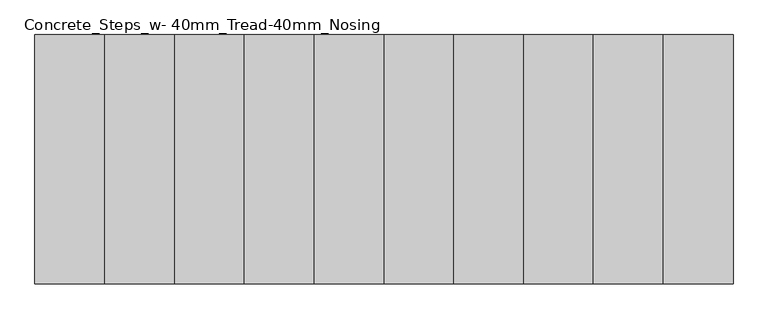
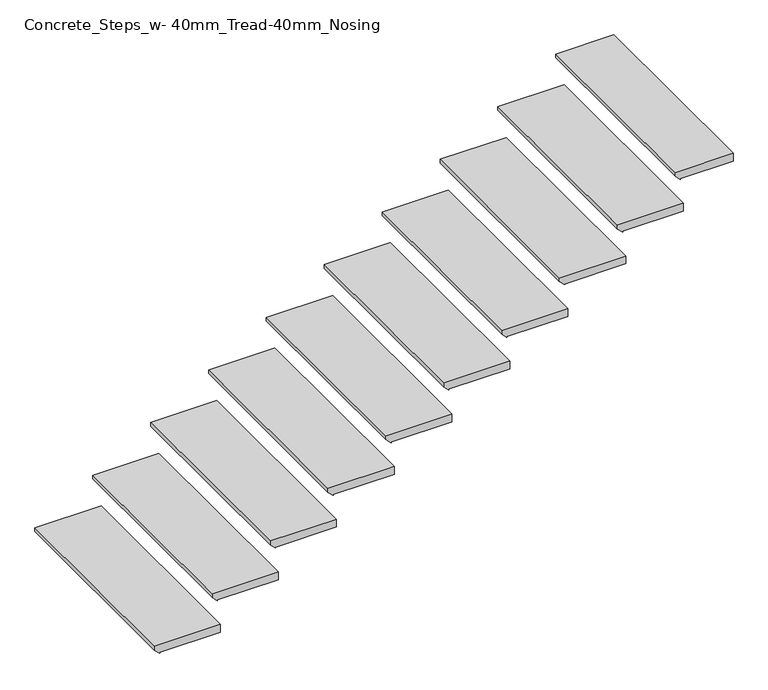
"""IFC4 building model written with IfcOpenShell, lengths in millimetres: stair flight geometry, Concrete_Steps_w- 40mm_Tread-40mm_Nosing."""

from ifc_helpers import new_model, si_unit, frame, origin, place, context, project, spatial, polyline, outline, extrude, source, transform, mapped, element, save


def concrete_steps_w_40mm_tread_40mm_nosing_744af4b3(model_context):
    return source(origin(), model_context, "Body", "SweptSolid", [
        extrude(outline(polyline([(11171.4285714, 35605.7942367), (11171.4285714, 35285.7942367), (11152.3785714, 35285.7942367), (11126.9785714, 35311.1942367), (11131.4285714, 35311.1942367), (11131.4285714, 35605.7942367), (11171.4285714, 35605.7942367)])), frame((0.0, -998.1974508, 0.0), z_axis=(0.0, 1.0, 0.0), x_axis=(0.0, 0.0, 1.0)), (0.0, 0.0, 1.0), 1000.0),
        extrude(outline(polyline([(11342.8571429, 35885.7942367), (11342.8571429, 35565.7942367), (11323.8071429, 35565.7942367), (11298.4071429, 35591.1942367), (11302.8571429, 35591.1942367), (11302.8571429, 35885.7942367), (11342.8571429, 35885.7942367)])), frame((0.0, -998.1974508, 0.0), z_axis=(0.0, 1.0, 0.0), x_axis=(0.0, 0.0, 1.0)), (0.0, 0.0, 1.0), 1000.0),
        extrude(outline(polyline([(11514.2857143, 36165.7942367), (11514.2857143, 35845.7942367), (11495.2357143, 35845.7942367), (11469.8357143, 35871.1942367), (11474.2857143, 35871.1942367), (11474.2857143, 36165.7942367), (11514.2857143, 36165.7942367)])), frame((0.0, -998.1974508, 0.0), z_axis=(0.0, 1.0, 0.0), x_axis=(0.0, 0.0, 1.0)), (0.0, 0.0, 1.0), 1000.0),
        extrude(outline(polyline([(11685.7142857, 36445.7942367), (11685.7142857, 36125.7942367), (11666.6642857, 36125.7942367), (11641.2642857, 36151.1942367), (11645.7142857, 36151.1942367), (11645.7142857, 36445.7942367), (11685.7142857, 36445.7942367)])), frame((0.0, -998.1974508, 0.0), z_axis=(0.0, 1.0, 0.0), x_axis=(0.0, 0.0, 1.0)), (0.0, 0.0, 1.0), 1000.0),
        extrude(outline(polyline([(11857.1428571, 36725.7942367), (11857.1428571, 36405.7942367), (11838.0928571, 36405.7942367), (11812.6928571, 36431.1942367), (11817.1428571, 36431.1942367), (11817.1428571, 36725.7942367), (11857.1428571, 36725.7942367)])), frame((0.0, -998.1974508, 0.0), z_axis=(0.0, 1.0, 0.0), x_axis=(0.0, 0.0, 1.0)), (0.0, 0.0, 1.0), 1000.0),
        extrude(outline(polyline([(12028.5714286, 37005.7942367), (12028.5714286, 36685.7942367), (12009.5214286, 36685.7942367), (11984.1214286, 36711.1942367), (11988.5714286, 36711.1942367), (11988.5714286, 37005.7942367), (12028.5714286, 37005.7942367)])), frame((0.0, -998.1974508, 0.0), z_axis=(0.0, 1.0, 0.0), x_axis=(0.0, 0.0, 1.0)), (0.0, 0.0, 1.0), 1000.0),
        extrude(outline(polyline([(12200.0, 37285.7942367), (12200.0, 36965.7942367), (12180.95, 36965.7942367), (12155.55, 36991.1942367), (12160.0, 36991.1942367), (12160.0, 37285.7942367), (12200.0, 37285.7942367)])), frame((0.0, -998.1974508, 0.0), z_axis=(0.0, 1.0, 0.0), x_axis=(0.0, 0.0, 1.0)), (0.0, 0.0, 1.0), 1000.0),
        extrude(outline(polyline([(12371.4285714, 37565.7942367), (12371.4285714, 37245.7942367), (12352.3785714, 37245.7942367), (12326.9785714, 37271.1942367), (12331.4285714, 37271.1942367), (12331.4285714, 37565.7942367), (12371.4285714, 37565.7942367)])), frame((0.0, -998.1974508, 0.0), z_axis=(0.0, 1.0, 0.0), x_axis=(0.0, 0.0, 1.0)), (0.0, 0.0, 1.0), 1000.0),
        extrude(outline(polyline([(12542.8571429, 37845.7942367), (12542.8571429, 37525.7942367), (12523.8071429, 37525.7942367), (12498.4071429, 37551.1942367), (12502.8571429, 37551.1942367), (12502.8571429, 37845.7942367), (12542.8571429, 37845.7942367)])), frame((0.0, -998.1974508, 0.0), z_axis=(0.0, 1.0, 0.0), x_axis=(0.0, 0.0, 1.0)), (0.0, 0.0, 1.0), 1000.0),
        extrude(outline(polyline([(12714.2857143, 38085.7942367), (12714.2857143, 37805.7942367), (12695.2357143, 37805.7942367), (12669.8357143, 37831.1942367), (12674.2857143, 37831.1942367), (12674.2857143, 38085.7942367), (12714.2857143, 38085.7942367)])), frame((0.0, -998.1974508, 0.0), z_axis=(0.0, 1.0, 0.0), x_axis=(0.0, 0.0, 1.0)), (0.0, 0.0, 1.0), 1000.0),
    ])


if __name__ == "__main__":
    model = new_model("IFC4")
    model_context = context("Model", 3, world=origin())
    ifc_project = project(units=[si_unit("LENGTHUNIT", "METRE", prefix="MILLI")], contexts=[model_context])
    site = spatial("IfcSite", under=ifc_project)
    building = spatial("IfcBuilding", under=site)
    placement = place(None, origin())
    concrete_steps_w_40mm_tread_40mm_nosing_shape = concrete_steps_w_40mm_tread_40mm_nosing_744af4b3(model_context)
    element("IfcStairFlight", 1, ObjectType="Concrete_Steps_w- 40mm_Tread-40mm_Nosing", at=placement, inside=building, context=model_context, shape_type="MappedRepresentation", body=[
        mapped(concrete_steps_w_40mm_tread_40mm_nosing_shape, transform((0.0, 0.0, 0.0), x_axis=(1.0, 0.0, 0.0), y_axis=(0.0, 1.0, 0.0), z_axis=(0.0, 0.0, 1.0))),
    ])
    save(model, "model.ifc")
